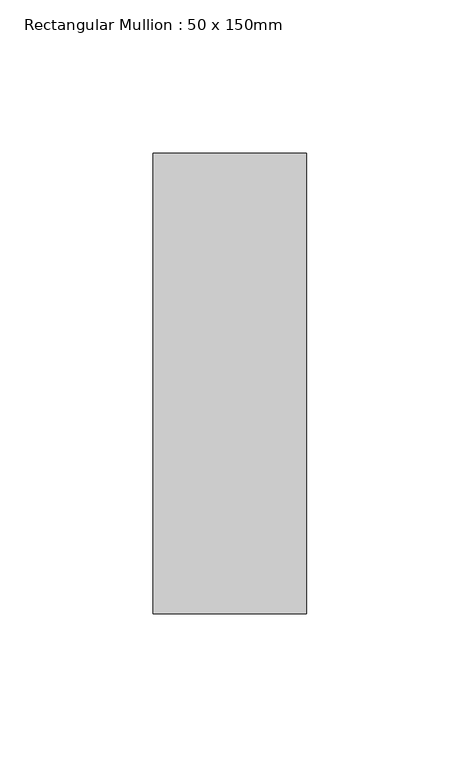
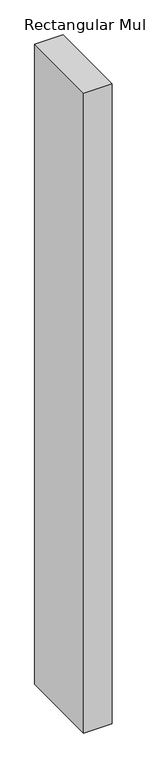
"""IFC4 building model written with IfcOpenShell, lengths in millimetres: member geometry, Rectangular Mullion : 50 x 150mm."""

from ifc_helpers import new_model, si_unit, frame, origin, place, context, project, spatial, polyline, outline, extrude, source, transform, mapped, element, save


def rectangular_mullion_50_x_150mm_9be94989(model_context):
    return source(origin(), model_context, "Body", "SweptSolid", [
        extrude(outline(polyline([(0.0, 75.0), (0.0, -75.0), (-50.0, -75.0), (-50.0, 75.0), (0.0, 75.0)])), frame((0.0, 0.0, -1193.9161679), z_axis=(0.0, 0.0, 1.0), x_axis=(1.0, 0.0, 0.0)), (0.0, 0.0, 1.0), 1193.9161679),
    ])


if __name__ == "__main__":
    model = new_model("IFC4")
    model_context = context("Model", 3, world=origin())
    ifc_project = project(units=[si_unit("LENGTHUNIT", "METRE", prefix="MILLI")], contexts=[model_context])
    site = spatial("IfcSite", under=ifc_project)
    building = spatial("IfcBuilding", under=site)
    placement = place(None, origin())
    rectangular_mullion_50_x_150mm_shape = rectangular_mullion_50_x_150mm_9be94989(model_context)
    element("IfcMember", 1, ObjectType="Rectangular Mullion : 50 x 150mm", at=placement, inside=building, context=model_context, shape_type="MappedRepresentation", body=[
        mapped(rectangular_mullion_50_x_150mm_shape, transform((0.0, 0.0, 0.0), x_axis=(1.0, 0.0, 0.0), y_axis=(0.0, 1.0, 0.0), z_axis=(0.0, 0.0, 1.0))),
    ])
    save(model, "model.ifc")
